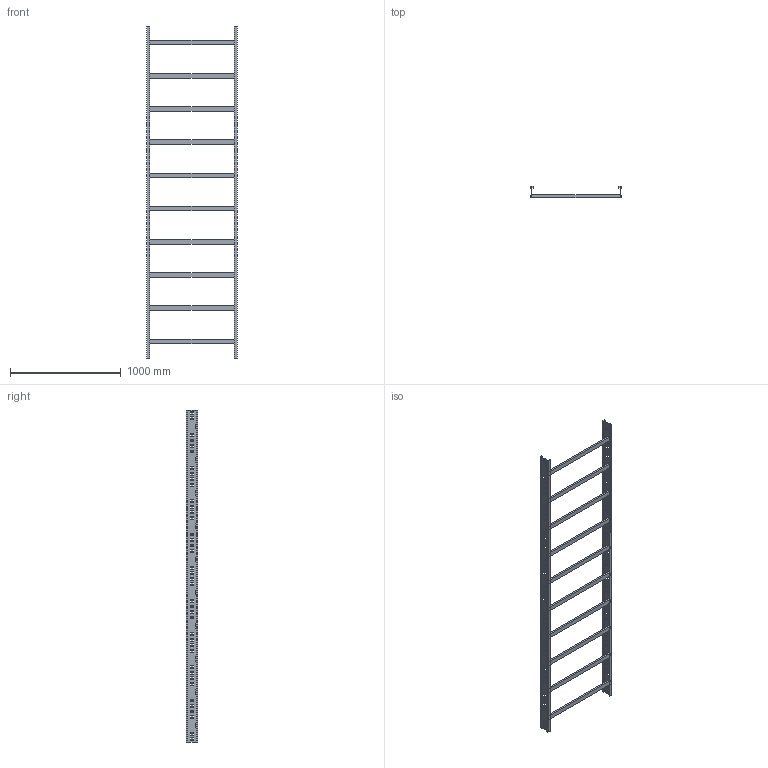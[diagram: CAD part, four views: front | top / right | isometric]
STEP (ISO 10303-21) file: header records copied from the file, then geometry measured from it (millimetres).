
FILE_DESCRIPTION (( 'STEP AP214' ), '1' );
FILE_NAME ('01S3D800.step', '2025-02-21T16:20:00', ( '' ), ( '' ), 'SwSTEP 2.0', 'SolidWorks 2023', '' );
FILE_SCHEMA (( 'AUTOMOTIVE_DESIGN' ));
Length unit declared in the file: millimetre
Products named in the file (3): 01S3D800; TRAVERSINO_800; LONGH.H100
Assembly tree (12 placements, depth 2):
  01S3D800
    LONGH.H100  x2
    TRAVERSINO_800  x10
Bounding box: 818 x 100 x 3000 mm (x, y, z)
Volume: 9583200 mm3; surface area: 2709011 mm2
Topology: 12 solids, 12 shells, 728 faces, 2112 edges, 1408 vertices
Faces by surface type: plane 728
Entity records: 11620 total; most frequent: CARTESIAN_POINT 2035, ORIENTED_EDGE 2016, DIRECTION 1718, VECTOR 1008, EDGE_CURVE 1008, LINE 1008, VERTEX_POINT 672, EDGE_LOOP 500
